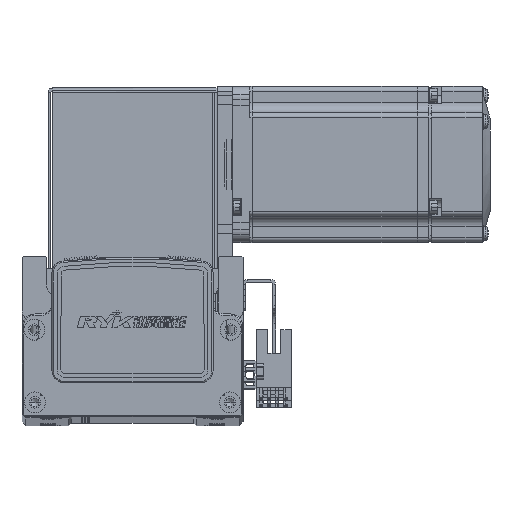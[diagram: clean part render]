
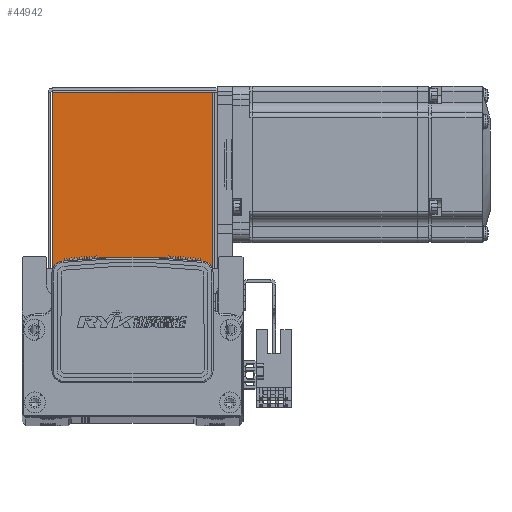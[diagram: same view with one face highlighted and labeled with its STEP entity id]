
A CAD part, top view. The second image highlights one B-rep face of the part: STEP entity #44942.
In plain terms, the highlighted planar face has unit normal (0, 0, 1) as drawn and (0, 0, -1) by its records, which use the part's own axes.
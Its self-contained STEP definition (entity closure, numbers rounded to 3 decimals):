
#5494 = EDGE_CURVE ( 'NONE', #74275, #74332, #82405, .T. ) ;
#5500 = EDGE_CURVE ( 'NONE', #74250, #74317, #82387, .T. ) ;
#5513 = EDGE_CURVE ( 'NONE', #74275, #74317, #82503, .T. ) ;
#5671 = EDGE_CURVE ( 'NONE', #74332, #74250, #82594, .T. ) ;
#11060 = ORIENTED_EDGE ( 'NONE', *, *, #5671, .T. ) ;
#11069 = ORIENTED_EDGE ( 'NONE', *, *, #5513, .F. ) ;
#11096 = ORIENTED_EDGE ( 'NONE', *, *, #5500, .T. ) ;
#11166 = ORIENTED_EDGE ( 'NONE', *, *, #5494, .T. ) ;
#21647 = CARTESIAN_POINT ( 'NONE',  ( -30.793, 0.737, -35. ) ) ;
#21684 = CARTESIAN_POINT ( 'NONE',  ( 30.763, 68.5, -35. ) ) ;
#21744 = CARTESIAN_POINT ( 'NONE',  ( -30.793, 68.5, -35. ) ) ;
#21751 = CARTESIAN_POINT ( 'NONE',  ( 30.763, 0.737, -35. ) ) ;
#44942 = ADVANCED_FACE ( 'NONE', ( #70861 ), #79519, .F. ) ;
#51109 = CARTESIAN_POINT ( 'NONE',  ( 32.5, 0.737, -35. ) ) ;
#51110 = CARTESIAN_POINT ( 'NONE',  ( -30.793, 0., -35. ) ) ;
#51117 = DIRECTION ( 'NONE',  ( 1., 0., 0. ) ) ;
#51131 = DIRECTION ( 'NONE',  ( 0., -1., 0. ) ) ;
#51142 = CARTESIAN_POINT ( 'NONE',  ( 30.763, 68.5, -35. ) ) ;
#51145 = DIRECTION ( 'NONE',  ( 0., 1., 0. ) ) ;
#51511 = EDGE_LOOP ( 'NONE', ( #11096, #11069, #11166, #11060 ) ) ;
#64859 = CARTESIAN_POINT ( 'NONE',  ( 0., 68.5, -35. ) ) ;
#64874 = DIRECTION ( 'NONE',  ( 1., 0., 0. ) ) ;
#70123 = AXIS2_PLACEMENT_3D ( 'NONE', #79521, #79574, #79523 ) ;
#70861 = FACE_OUTER_BOUND ( 'NONE', #51511, .T. ) ;
#74250 = VERTEX_POINT ( 'NONE', #21684 ) ;
#74275 = VERTEX_POINT ( 'NONE', #21647 ) ;
#74317 = VERTEX_POINT ( 'NONE', #21751 ) ;
#74332 = VERTEX_POINT ( 'NONE', #21744 ) ;
#79519 = PLANE ( 'NONE',  #70123 ) ;
#79521 = CARTESIAN_POINT ( 'NONE',  ( 0., 0., -35. ) ) ;
#79523 = DIRECTION ( 'NONE',  ( 0., -1., 0. ) ) ;
#79574 = DIRECTION ( 'NONE',  ( 0., 0., 1. ) ) ;
#82378 = VECTOR ( 'NONE', #51145, 1000. ) ;
#82387 = LINE ( 'NONE', #51142, #82389 ) ;
#82389 = VECTOR ( 'NONE', #51131, 1000. ) ;
#82405 = LINE ( 'NONE', #51110, #82378 ) ;
#82471 = VECTOR ( 'NONE', #51117, 1000. ) ;
#82503 = LINE ( 'NONE', #51109, #82471 ) ;
#82584 = VECTOR ( 'NONE', #64874, 1000. ) ;
#82594 = LINE ( 'NONE', #64859, #82584 ) ;
